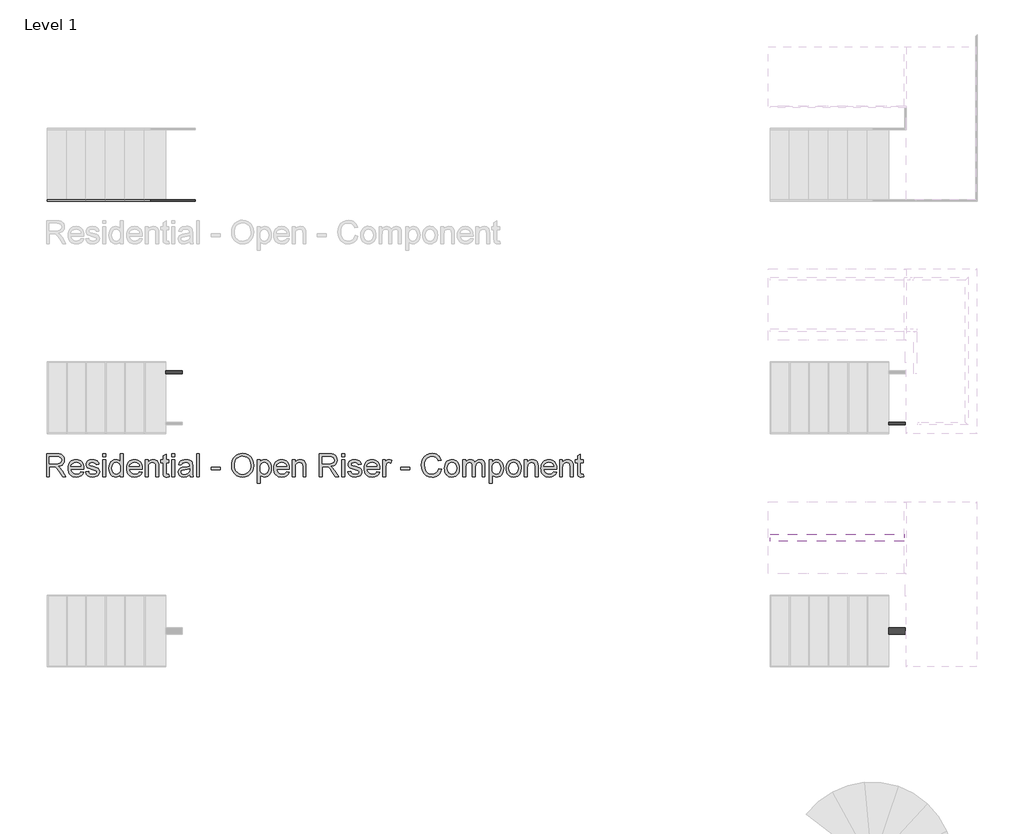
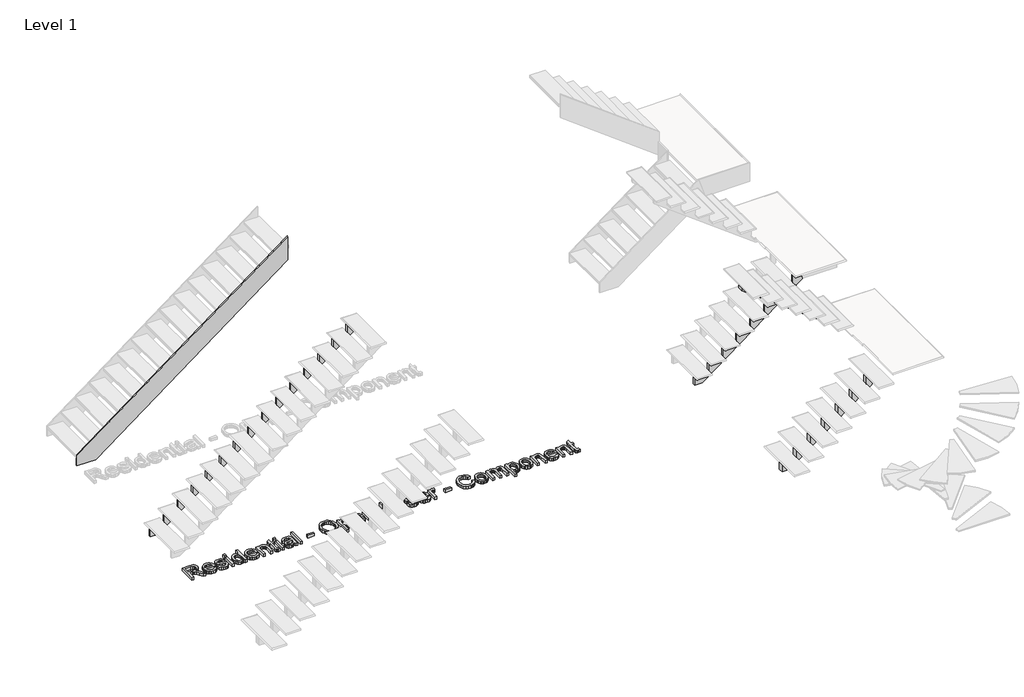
# One storey, part 5 of 15: 5 members, 1 proxy.
"""IFC4 building model written with IfcOpenShell, lengths in millimetres."""

from ifc_helpers import new_model, si_unit, frame, origin, origin_with_axes, place, context, project, spatial, polyline, outline, extrude, element, save

model = new_model("IFC4")

# Units and contexts
model_context = context("Model", 3, world=origin())
ifc_project = project(units=[si_unit("LENGTHUNIT", "METRE", prefix="MILLI")], contexts=[model_context])

# Site, building, storey
site = spatial("IfcSite", under=ifc_project)
building = spatial("IfcBuilding", under=site)
storey = spatial("IfcBuildingStorey", under=building, Name="Level 1", Elevation=0.0)

# Proxy
placement = place(None, origin())
element("IfcBuildingElementProxy", 1, Name="12\" Arial", ObjectType="12\" Arial", at=placement, inside=storey, context=model_context, shape_type="SweptSolid", body=[
    extrude(outline(polyline([(-27238.310174, -8811.1232123), (-27238.310174, -8511.012443), (-27108.9899817, -8511.012443), (-27074.2328904, -8513.0365055), (-27048.9458471, -8519.108693), (-27030.4636837, -8530.3188854), (-27016.1212317, -8547.7569623), (-27006.9167846, -8569.380544), (-27003.8486356, -8593.1472507), (-27008.9316885, -8622.7113854), (-27024.1808471, -8647.219943), (-27035.7321993, -8657.2074551), (-27050.0540442, -8665.1892219), (-27087.0092125, -8675.13552), (-27065.6878664, -8691.1814815), (-27035.2811356, -8729.7943661), (-26985.238251, -8811.1232123), (-27028.8334433, -8811.1232123), (-27067.8859433, -8748.9176354), (-27096.0945971, -8707.7403277), (-27115.913924, -8688.2873469), (-27133.7549817, -8681.1435969), (-27155.5159433, -8679.8247507), (-27200.7963279, -8679.8247507), (-27200.7963279, -8811.1232123), (-27238.310174, -8811.1232123)]), holes=[polyline([(-27200.7963279, -8642.3109046), (-27116.8297894, -8642.3109046), (-27092.7150539, -8640.9828998), (-27074.003924, -8636.9988854), (-27059.9179144, -8630.0932604), (-27049.6785394, -8620.0004238), (-27043.4414962, -8607.7919382), (-27041.3624817, -8594.5393661), (-27045.3281789, -8576.2403757), (-27057.2252702, -8561.494943), (-27077.6948615, -8551.7684527), (-27107.3780587, -8548.5262892), (-27200.7963279, -8548.5262892), (-27200.7963279, -8642.3109046)])]), origin_with_axes(), (0.0, 0.0, 1.0), 50.8),
    extrude(outline(polyline([(-26788.5836356, -8745.4739815), (-26751.8024817, -8750.1632123), (-26765.0550539, -8777.8772988), (-26786.2023856, -8798.5941738), (-26814.7682269, -8811.5078757), (-26850.2763279, -8815.812443), (-26873.5530466, -8813.955526), (-26894.2928183, -8808.3847748), (-26912.4956428, -8799.1001894), (-26928.1615202, -8786.10177), (-26940.7592486, -8769.7512832), (-26949.757626, -8750.4104959), (-26955.1566524, -8728.0794082), (-26956.9563279, -8702.75802), (-26955.1383351, -8676.5780079), (-26949.6843567, -8653.5027796), (-26940.5943928, -8633.5323349), (-26927.8684433, -8616.6666738), (-26912.2437798, -8603.2675632), (-26894.457674, -8593.69677), (-26874.510126, -8587.954294), (-26852.4011356, -8586.0401354), (-26831.0042305, -8587.9497147), (-26811.6542846, -8593.6784527), (-26794.3512978, -8603.2263493), (-26779.0952702, -8616.5934046), (-26766.6417906, -8633.422431), (-26757.7464481, -8653.3562411), (-26752.4092426, -8676.3948349), (-26750.630174, -8702.5382123), (-26750.8499817, -8712.6493661), (-26919.4424817, -8712.6493661), (-26912.9489962, -8740.7297988), (-26897.8646933, -8761.3734046), (-26876.0945731, -8774.0672988), (-26849.5436356, -8778.2985969), (-26829.5777702, -8776.338645), (-26812.7624817, -8770.4587892), (-26799.0977702, -8760.2926834), (-26788.5836356, -8745.4739815)]), holes=[polyline([(-26919.4424817, -8675.13552), (-26788.1440202, -8675.13552), (-26793.2179144, -8655.316193), (-26803.1642125, -8641.1385969), (-26825.0350779, -8627.9501354), (-26852.547674, -8623.5539815), (-26877.8347173, -8627.0617459), (-26898.743924, -8637.5850392), (-26913.2787077, -8653.9881882), (-26919.4424817, -8675.13552)])]), origin_with_axes(), (0.0, 0.0, 1.0), 50.8),
    extrude(outline(polyline([(-26727.1840202, -8745.4739815), (-26689.670174, -8740.7847507), (-26683.7536837, -8756.8307123), (-26672.3053664, -8768.6270584), (-26655.2519529, -8775.8807123), (-26632.520174, -8778.2985969), (-26610.0631548, -8776.0822027), (-26594.2736356, -8769.43302), (-26584.9318087, -8759.7981161), (-26581.8178664, -8748.6245584), (-26584.950126, -8739.0629238), (-26594.3469048, -8731.7726354), (-26632.9597894, -8721.0753277), (-26689.4503664, -8702.7213854), (-26703.747025, -8693.4986209), (-26714.1054625, -8681.2901354), (-26720.3974577, -8666.8744142), (-26722.4947894, -8651.029943), (-26720.8095971, -8636.4951594), (-26715.7540202, -8623.0777315), (-26707.7859914, -8611.3088613), (-26697.3634433, -8601.7197507), (-26673.5143087, -8590.6194623), (-26641.2392125, -8586.0401354), (-26616.8222414, -8587.8810248), (-26595.5924817, -8593.403693), (-26578.520751, -8602.0677796), (-26566.5778664, -8613.3329238), (-26558.6647894, -8628.0325632), (-26553.6824817, -8647.0001354), (-26591.1963279, -8651.6893661), (-26595.9313519, -8639.8838613), (-26605.3006548, -8630.9908084), (-26619.3958231, -8625.4131882), (-26638.3084433, -8623.5539815), (-26659.8495971, -8625.3307604), (-26674.2103664, -8630.6610969), (-26682.288299, -8638.3543661), (-26684.9809433, -8647.219943), (-26680.5115202, -8658.1370584), (-26666.5170971, -8666.4164815), (-26634.2053664, -8674.4028277), (-26579.1435394, -8692.0607123), (-26564.5995971, -8700.5049911), (-26553.5725779, -8712.0632123), (-26546.6211596, -8726.7720104), (-26544.3040202, -8744.66802), (-26547.0241404, -8763.1685007), (-26555.184501, -8780.569943), (-26568.4737077, -8795.5077075), (-26586.5803664, -8806.6171546), (-26608.4512317, -8813.5136209), (-26633.0330587, -8815.812443), (-26670.858299, -8811.3796546), (-26698.4624817, -8798.0812892), (-26716.8896933, -8776.0638854), (-26727.1840202, -8745.4739815)])), origin_with_axes(), (0.0, 0.0, 1.0), 50.8),
    extrude(outline(polyline([(-26502.1009433, -8811.1232123), (-26502.1009433, -8590.7293661), (-26464.5870971, -8590.7293661), (-26464.5870971, -8811.1232123), (-26502.1009433, -8811.1232123)])), origin_with_axes(), (0.0, 0.0, 1.0), 50.8),
    extrude(outline(polyline([(-26502.1009433, -8548.5262892), (-26502.1009433, -8511.012443), (-26464.5870971, -8511.012443), (-26464.5870971, -8548.5262892), (-26502.1009433, -8548.5262892)])), origin_with_axes(), (0.0, 0.0, 1.0), 50.8),
    extrude(outline(polyline([(-26272.3286356, -8811.1232123), (-26272.3286356, -8775.7341738), (-26283.5525659, -8793.2684166), (-26297.1485875, -8805.7928757), (-26313.1167005, -8813.3075512), (-26331.4569048, -8815.812443), (-26355.7090202, -8812.1856161), (-26377.9095971, -8801.3051354), (-26396.7031548, -8783.931169), (-26410.7342125, -8760.8238854), (-26419.4715683, -8732.9174671), (-26422.3840202, -8701.1460969), (-26419.7005346, -8669.7685488), (-26411.6500779, -8641.4316738), (-26398.2418087, -8617.747395), (-26379.4848856, -8600.3276354), (-26356.7989, -8589.6120104), (-26331.6034433, -8586.0401354), (-26313.249501, -8588.5953998), (-26297.0203664, -8596.261193), (-26283.2640683, -8608.0117459), (-26272.3286356, -8622.8212892), (-26272.3286356, -8511.012443), (-26234.8147894, -8511.012443), (-26234.8147894, -8811.1232123), (-26272.3286356, -8811.1232123)]), holes=[polyline([(-26384.870174, -8700.9995584), (-26380.638876, -8734.9323709), (-26367.9449817, -8759.0654238), (-26349.4994529, -8773.4903036), (-26328.013251, -8778.2985969), (-26306.5362077, -8773.7101113), (-26288.5577702, -8759.9446546), (-26276.3859192, -8736.7457844), (-26272.3286356, -8703.8570584), (-26276.4591885, -8667.9001834), (-26288.8508471, -8642.9703277), (-26307.2872173, -8628.408068), (-26329.5519048, -8623.5539815), (-26351.2579144, -8628.2157363), (-26369.0440202, -8642.2010007), (-26380.9136356, -8666.2241498), (-26384.870174, -8700.9995584)])]), origin_with_axes(), (0.0, 0.0, 1.0), 50.8),
    extrude(outline(polyline([(-26024.2390202, -8745.4739815), (-25987.4578664, -8750.1632123), (-26000.7104385, -8777.8772988), (-26021.8577702, -8798.5941738), (-26050.4236115, -8811.5078757), (-26085.9317125, -8815.812443), (-26109.2084313, -8813.955526), (-26129.9482029, -8808.3847748), (-26148.1510274, -8799.1001894), (-26163.8169048, -8786.10177), (-26176.4146332, -8769.7512832), (-26185.4130106, -8750.4104959), (-26190.812037, -8728.0794082), (-26192.6117125, -8702.75802), (-26190.7937197, -8676.5780079), (-26185.3397414, -8653.5027796), (-26176.2497774, -8633.5323349), (-26163.5238279, -8616.6666738), (-26147.8991644, -8603.2675632), (-26130.1130587, -8593.69677), (-26110.1655106, -8587.954294), (-26088.0565202, -8586.0401354), (-26066.6596152, -8587.9497147), (-26047.3096692, -8593.6784527), (-26030.0066825, -8603.2263493), (-26014.7506548, -8616.5934046), (-26002.2971753, -8633.422431), (-25993.4018327, -8653.3562411), (-25988.0646272, -8676.3948349), (-25986.2855587, -8702.5382123), (-25986.5053664, -8712.6493661), (-26155.0978664, -8712.6493661), (-26148.6043808, -8740.7297988), (-26133.5200779, -8761.3734046), (-26111.7499577, -8774.0672988), (-26085.1990202, -8778.2985969), (-26065.2331548, -8776.338645), (-26048.4178664, -8770.4587892), (-26034.7531548, -8760.2926834), (-26024.2390202, -8745.4739815)]), holes=[polyline([(-26155.0978664, -8675.13552), (-26023.7994048, -8675.13552), (-26028.873299, -8655.316193), (-26038.8195971, -8641.1385969), (-26060.6904625, -8627.9501354), (-26088.2030587, -8623.5539815), (-26113.4901019, -8627.0617459), (-26134.3993087, -8637.5850392), (-26148.9340923, -8653.9881882), (-26155.0978664, -8675.13552)])]), origin_with_axes(), (0.0, 0.0, 1.0), 50.8),
    extrude(outline(polyline([(-25948.7717125, -8811.1232123), (-25948.7717125, -8590.7293661), (-25911.2578664, -8590.7293661), (-25911.2578664, -8621.502443), (-25898.2251019, -8605.9876834), (-25882.5729625, -8594.9057123), (-25864.3014481, -8588.2565296), (-25843.4105587, -8586.0401354), (-25824.9192365, -8587.8260729), (-25807.9848856, -8593.1838854), (-25793.8622414, -8601.4449911), (-25783.8060394, -8611.9408084), (-25772.5592125, -8639.5266738), (-25770.5809433, -8675.794943), (-25770.5809433, -8811.1232123), (-25808.0947894, -8811.1232123), (-25808.0947894, -8680.85052), (-25812.417674, -8647.6595584), (-25818.398275, -8637.7773709), (-25827.6943087, -8630.1115777), (-25839.6097173, -8625.1933805), (-25853.4484433, -8623.5539815), (-25875.4200539, -8627.2357604), (-25894.149501, -8638.2810969), (-25901.6344108, -8647.2977916), (-25906.980775, -8659.6207604), (-25911.2578664, -8694.18552), (-25911.2578664, -8811.1232123), (-25948.7717125, -8811.1232123)])), origin_with_axes(), (0.0, 0.0, 1.0), 50.8),
    extrude(outline(polyline([(-25639.2824817, -8779.8372507), (-25634.593251, -8812.2222507), (-25662.6553664, -8815.812443), (-25680.6612798, -8814.2554719), (-25694.0878664, -8809.5845584), (-25703.5762317, -8802.3858565), (-25709.7674817, -8793.24552), (-25713.174501, -8777.5475873), (-25714.310174, -8750.6760969), (-25714.310174, -8628.2432123), (-25742.4455587, -8628.2432123), (-25742.4455587, -8590.7293661), (-25714.310174, -8590.7293661), (-25714.310174, -8537.1695584), (-25676.7963279, -8515.11552), (-25676.7963279, -8590.7293661), (-25639.2824817, -8590.7293661), (-25639.2824817, -8628.2432123), (-25676.7963279, -8628.2432123), (-25676.7963279, -8749.5770584), (-25674.8180587, -8768.9201354), (-25668.407001, -8775.7708084), (-25655.6215202, -8778.2985969), (-25639.2824817, -8779.8372507)])), origin_with_axes(), (0.0, 0.0, 1.0), 50.8),
    extrude(outline(polyline([(-25601.7686356, -8811.1232123), (-25601.7686356, -8590.7293661), (-25564.2547894, -8590.7293661), (-25564.2547894, -8811.1232123), (-25601.7686356, -8811.1232123)])), origin_with_axes(), (0.0, 0.0, 1.0), 50.8),
    extrude(outline(polyline([(-25601.7686356, -8548.5262892), (-25601.7686356, -8511.012443), (-25564.2547894, -8511.012443), (-25564.2547894, -8548.5262892), (-25601.7686356, -8548.5262892)])), origin_with_axes(), (0.0, 0.0, 1.0), 50.8),
    extrude(outline(polyline([(-25367.3070971, -8782.9878277), (-25385.2305827, -8798.3560488), (-25403.6852702, -8808.4122507), (-25423.0924577, -8813.962395), (-25443.8734433, -8815.812443), (-25475.2235154, -8811.3613373), (-25498.3491164, -8798.00802), (-25512.6091404, -8777.7307604), (-25517.3624817, -8752.5078277), (-25515.5673856, -8736.9564334), (-25510.1820971, -8722.8337892), (-25501.8751981, -8710.7443661), (-25491.3152702, -8701.2926354), (-25465.048251, -8688.9834046), (-25432.5899817, -8683.3416738), (-25394.2335394, -8677.4068661), (-25367.5269048, -8670.4462892), (-25367.3070971, -8662.0935969), (-25369.8898375, -8645.3515777), (-25377.6380587, -8634.3978277), (-25394.9662317, -8626.264943), (-25419.1084433, -8623.5539815), (-25441.4555587, -8625.3582363), (-25457.0619048, -8630.7710007), (-25467.7042606, -8640.7814094), (-25475.1594048, -8656.3785969), (-25512.673251, -8651.6893661), (-25506.1614481, -8631.1739815), (-25496.4441164, -8615.0547507), (-25482.614549, -8602.7272027), (-25463.7660394, -8593.5868661), (-25440.7137077, -8587.926818), (-25414.272674, -8586.0401354), (-25388.9123615, -8587.7070104), (-25368.8091164, -8592.7076354), (-25353.6515442, -8600.2268902), (-25343.128251, -8609.4496546), (-25336.1493567, -8620.8521786), (-25331.6249817, -8634.9107123), (-25329.793251, -8667.7353277), (-25329.793251, -8714.4078277), (-25327.888251, -8779.5808084), (-25320.4147894, -8811.1232123), (-25357.9286356, -8811.1232123), (-25367.3070971, -8782.9878277)]), holes=[polyline([(-25367.3070971, -8707.9601354), (-25427.8274817, -8719.4634046), (-25460.1025779, -8725.5447507), (-25474.7197894, -8735.4360969), (-25479.8486356, -8749.8701354), (-25477.0552462, -8761.0253757), (-25468.6750779, -8770.1657123), (-25454.8913039, -8776.2653757), (-25435.8870971, -8778.2985969), (-25415.7380587, -8776.0547267), (-25397.9336356, -8769.3231161), (-25383.4995971, -8759.404294), (-25373.4617125, -8747.5987892), (-25369.0106067, -8735.4360969), (-25367.5269048, -8718.5841738), (-25367.3070971, -8707.9601354)])]), origin_with_axes(), (0.0, 0.0, 1.0), 50.8),
    extrude(outline(polyline([(-25278.2117125, -8811.1232123), (-25278.2117125, -8511.012443), (-25240.6978664, -8511.012443), (-25240.6978664, -8811.1232123), (-25278.2117125, -8811.1232123)])), origin_with_axes(), (0.0, 0.0, 1.0), 50.8),
    extrude(outline(polyline([(-25085.953251, -8722.0278277), (-25085.953251, -8684.5139815), (-24968.7224817, -8684.5139815), (-24968.7224817, -8722.0278277), (-25085.953251, -8722.0278277)])), origin_with_axes(), (0.0, 0.0, 1.0), 50.8),
    extrude(outline(polyline([(-24818.6670971, -8665.0243661), (-24816.1667846, -8629.8230801), (-24808.6658471, -8598.6607604), (-24796.1642846, -8571.537407), (-24778.6620971, -8548.45302), (-24757.2079505, -8530.0212291), (-24732.8505106, -8516.8556642), (-24705.5897774, -8508.9563253), (-24675.425751, -8506.3232123), (-24636.0618567, -8511.2688854), (-24600.7644048, -8526.1059046), (-24571.4567125, -8549.7901834), (-24550.0620971, -8581.2776354), (-24536.9835394, -8619.0479238), (-24532.6240202, -8661.5807123), (-24537.2125058, -8704.6813373), (-24550.9779625, -8742.9828277), (-24573.1602221, -8774.5252315), (-24602.9991164, -8797.3485969), (-24637.9943327, -8811.1964815), (-24675.6455587, -8815.812443), (-24715.613924, -8810.7110729), (-24751.1128664, -8795.4069623), (-24780.3472894, -8771.283068), (-24801.5220971, -8739.7223469), (-24814.3808471, -8703.4082844), (-24818.6670971, -8665.0243661)]), holes=[polyline([(-24781.153251, -8665.3907123), (-24779.2780166, -8690.2610368), (-24773.6523135, -8712.3379719), (-24764.2761416, -8731.6215176), (-24751.149501, -8748.1116738), (-24735.1928363, -8761.3184527), (-24717.3265923, -8770.7518661), (-24697.550769, -8776.4119142), (-24675.8653664, -8778.2985969), (-24653.8090382, -8776.3935969), (-24633.7996692, -8770.6785969), (-24615.8372594, -8761.1535969), (-24599.9218087, -8747.8185969), (-24586.8913339, -8730.9804118), (-24577.5838519, -8710.9458565), (-24571.9993628, -8687.714931), (-24570.1378664, -8661.2876354), (-24573.3250779, -8628.0783565), (-24582.8867125, -8599.3751354), (-24598.5754865, -8575.9015055), (-24620.1441164, -8558.3810007), (-24646.1638519, -8547.473044), (-24675.2059433, -8543.8370584), (-24696.1380466, -8545.588651), (-24715.5589721, -8550.8434286), (-24733.4687197, -8559.6013914), (-24749.8672894, -8571.8625392), (-24763.5548976, -8588.2176053), (-24773.3317606, -8609.2573229), (-24779.1978784, -8634.9816918), (-24781.153251, -8665.3907123)])]), origin_with_axes(), (0.0, 0.0, 1.0), 50.8),
    extrude(outline(polyline([(-24485.7317125, -8895.5293661), (-24485.7317125, -8590.7293661), (-24448.2178664, -8590.7293661), (-24448.2178664, -8627.51052), (-24435.9819048, -8609.3672267), (-24422.2805587, -8596.4077315), (-24406.3078664, -8588.6320344), (-24387.2578664, -8586.0401354), (-24361.8883952, -8589.6669623), (-24339.7061356, -8600.547443), (-24321.6452702, -8618.0221546), (-24308.6399817, -8641.4316738), (-24300.7818567, -8669.0724911), (-24298.1624817, -8699.2410969), (-24301.1207269, -8731.3238613), (-24309.9954625, -8760.0179238), (-24324.5027702, -8783.8670584), (-24344.3587317, -8801.4150392), (-24367.4843327, -8812.2130921), (-24391.8005587, -8815.812443), (-24409.0463039, -8813.4037171), (-24424.442001, -8806.1775392), (-24437.6213039, -8795.2695825), (-24448.2178664, -8781.81552), (-24448.2178664, -8895.5293661), (-24485.7317125, -8895.5293661)]), holes=[polyline([(-24448.2178664, -8702.6847507), (-24444.1605827, -8736.3153277), (-24431.9887317, -8759.8347507), (-24414.0286115, -8773.6826354), (-24392.6065202, -8778.2985969), (-24370.8364, -8773.5177796), (-24352.4183471, -8759.1753277), (-24339.8618327, -8734.7949911), (-24335.6763279, -8699.90052), (-24339.7610875, -8666.4531161), (-24352.0153664, -8642.6039815), (-24369.9480106, -8628.3164815), (-24391.0678664, -8623.5539815), (-24412.27015, -8628.6187171), (-24430.8896933, -8643.8129238), (-24443.8858231, -8668.6603517), (-24448.2178664, -8702.6847507)])]), origin_with_axes(), (0.0, 0.0, 1.0), 50.8),
    extrude(outline(polyline([(-24101.6544048, -8745.4739815), (-24064.873251, -8750.1632123), (-24078.1258231, -8777.8772988), (-24099.2731548, -8798.5941738), (-24127.8389962, -8811.5078757), (-24163.3470971, -8815.812443), (-24186.6238159, -8813.955526), (-24207.3635875, -8808.3847748), (-24225.566412, -8799.1001894), (-24241.2322894, -8786.10177), (-24253.8300178, -8769.7512832), (-24262.8283952, -8750.4104959), (-24268.2274216, -8728.0794082), (-24270.0270971, -8702.75802), (-24268.2091043, -8676.5780079), (-24262.755126, -8653.5027796), (-24253.665162, -8633.5323349), (-24240.9392125, -8616.6666738), (-24225.314549, -8603.2675632), (-24207.5284433, -8593.69677), (-24187.5808952, -8587.954294), (-24165.4719048, -8586.0401354), (-24144.0749998, -8587.9497147), (-24124.7250539, -8593.6784527), (-24107.4220671, -8603.2263493), (-24092.1660394, -8616.5934046), (-24079.7125599, -8633.422431), (-24070.8172173, -8653.3562411), (-24065.4800118, -8676.3948349), (-24063.7009433, -8702.5382123), (-24063.920751, -8712.6493661), (-24232.513251, -8712.6493661), (-24226.0197654, -8740.7297988), (-24210.9354625, -8761.3734046), (-24189.1653423, -8774.0672988), (-24162.6144048, -8778.2985969), (-24142.6485394, -8776.338645), (-24125.833251, -8770.4587892), (-24112.1685394, -8760.2926834), (-24101.6544048, -8745.4739815)]), holes=[polyline([(-24232.513251, -8675.13552), (-24101.2147894, -8675.13552), (-24106.2886837, -8655.316193), (-24116.2349817, -8641.1385969), (-24138.1058471, -8627.9501354), (-24165.6184433, -8623.5539815), (-24190.9054865, -8627.0617459), (-24211.8146933, -8637.5850392), (-24226.3494769, -8653.9881882), (-24232.513251, -8675.13552)])]), origin_with_axes(), (0.0, 0.0, 1.0), 50.8),
    extrude(outline(polyline([(-24026.1870971, -8811.1232123), (-24026.1870971, -8590.7293661), (-23988.673251, -8590.7293661), (-23988.673251, -8621.502443), (-23975.6404865, -8605.9876834), (-23959.9883471, -8594.9057123), (-23941.7168327, -8588.2565296), (-23920.8259433, -8586.0401354), (-23902.3346212, -8587.8260729), (-23885.4002702, -8593.1838854), (-23871.277626, -8601.4449911), (-23861.221424, -8611.9408084), (-23849.9745971, -8639.5266738), (-23847.9963279, -8675.794943), (-23847.9963279, -8811.1232123), (-23885.510174, -8811.1232123), (-23885.510174, -8680.85052), (-23889.8330587, -8647.6595584), (-23895.8136596, -8637.7773709), (-23905.1096933, -8630.1115777), (-23917.0251019, -8625.1933805), (-23930.8638279, -8623.5539815), (-23952.8354385, -8627.2357604), (-23971.5648856, -8638.2810969), (-23979.0497954, -8647.2977916), (-23984.3961596, -8659.6207604), (-23988.673251, -8694.18552), (-23988.673251, -8811.1232123), (-24026.1870971, -8811.1232123)])), origin_with_axes(), (0.0, 0.0, 1.0), 50.8),
    extrude(outline(polyline([(-23674.4947894, -8811.1232123), (-23674.4947894, -8511.012443), (-23545.1745971, -8511.012443), (-23510.4175058, -8513.0365055), (-23485.1304625, -8519.108693), (-23466.648299, -8530.3188854), (-23452.3058471, -8547.7569623), (-23443.1014, -8569.380544), (-23440.033251, -8593.1472507), (-23445.1163039, -8622.7113854), (-23460.3654625, -8647.219943), (-23471.9168147, -8657.2074551), (-23486.2386596, -8665.1892219), (-23523.1938279, -8675.13552), (-23501.8724817, -8691.1814815), (-23471.465751, -8729.7943661), (-23421.4228664, -8811.1232123), (-23465.0180587, -8811.1232123), (-23504.0705587, -8748.9176354), (-23532.2792125, -8707.7403277), (-23552.0985394, -8688.2873469), (-23569.9395971, -8681.1435969), (-23591.7005587, -8679.8247507), (-23636.9809433, -8679.8247507), (-23636.9809433, -8811.1232123), (-23674.4947894, -8811.1232123)]), holes=[polyline([(-23636.9809433, -8642.3109046), (-23553.0144048, -8642.3109046), (-23528.8996692, -8640.9828998), (-23510.1885394, -8636.9988854), (-23496.1025298, -8630.0932604), (-23485.8631548, -8620.0004238), (-23479.6261115, -8607.7919382), (-23477.5470971, -8594.5393661), (-23481.5127942, -8576.2403757), (-23493.4098856, -8561.494943), (-23513.8794769, -8551.7684527), (-23543.562674, -8548.5262892), (-23636.9809433, -8548.5262892), (-23636.9809433, -8642.3109046)])]), origin_with_axes(), (0.0, 0.0, 1.0), 50.8),
    extrude(outline(polyline([(-23379.073251, -8811.1232123), (-23379.073251, -8590.7293661), (-23341.5594048, -8590.7293661), (-23341.5594048, -8811.1232123), (-23379.073251, -8811.1232123)])), origin_with_axes(), (0.0, 0.0, 1.0), 50.8),
    extrude(outline(polyline([(-23379.073251, -8548.5262892), (-23379.073251, -8511.012443), (-23341.5594048, -8511.012443), (-23341.5594048, -8548.5262892), (-23379.073251, -8548.5262892)])), origin_with_axes(), (0.0, 0.0, 1.0), 50.8),
    extrude(outline(polyline([(-23299.3563279, -8745.4739815), (-23261.8424817, -8740.7847507), (-23255.9259914, -8756.8307123), (-23244.477674, -8768.6270584), (-23227.4242606, -8775.8807123), (-23204.6924817, -8778.2985969), (-23182.2354625, -8776.0822027), (-23166.4459433, -8769.43302), (-23157.1041164, -8759.7981161), (-23153.990174, -8748.6245584), (-23157.1224337, -8739.0629238), (-23166.5192125, -8731.7726354), (-23205.1320971, -8721.0753277), (-23261.622674, -8702.7213854), (-23275.9193327, -8693.4986209), (-23286.2777702, -8681.2901354), (-23292.5697654, -8666.8744142), (-23294.6670971, -8651.029943), (-23292.9819048, -8636.4951594), (-23287.9263279, -8623.0777315), (-23279.958299, -8611.3088613), (-23269.535751, -8601.7197507), (-23245.6866164, -8590.6194623), (-23213.4115202, -8586.0401354), (-23188.994549, -8587.8810248), (-23167.7647894, -8593.403693), (-23150.6930587, -8602.0677796), (-23138.750174, -8613.3329238), (-23130.8370971, -8628.0325632), (-23125.8547894, -8647.0001354), (-23163.3686356, -8651.6893661), (-23168.1036596, -8639.8838613), (-23177.4729625, -8630.9908084), (-23191.5681308, -8625.4131882), (-23210.480751, -8623.5539815), (-23232.0219048, -8625.3307604), (-23246.382674, -8630.6610969), (-23254.4606067, -8638.3543661), (-23257.153251, -8647.219943), (-23252.6838279, -8658.1370584), (-23238.6894048, -8666.4164815), (-23206.377674, -8674.4028277), (-23151.3158471, -8692.0607123), (-23136.7719048, -8700.5049911), (-23125.7448856, -8712.0632123), (-23118.7934673, -8726.7720104), (-23116.4763279, -8744.66802), (-23119.1964481, -8763.1685007), (-23127.3568087, -8780.569943), (-23140.6460154, -8795.5077075), (-23158.752674, -8806.6171546), (-23180.6235394, -8813.5136209), (-23205.2053664, -8815.812443), (-23243.0306067, -8811.3796546), (-23270.6347894, -8798.0812892), (-23289.062001, -8776.0638854), (-23299.3563279, -8745.4739815)])), origin_with_axes(), (0.0, 0.0, 1.0), 50.8),
    extrude(outline(polyline([(-22919.968251, -8745.4739815), (-22883.1870971, -8750.1632123), (-22896.4396692, -8777.8772988), (-22917.587001, -8798.5941738), (-22946.1528423, -8811.5078757), (-22981.6609433, -8815.812443), (-23004.937662, -8813.955526), (-23025.6774337, -8808.3847748), (-23043.8802582, -8799.1001894), (-23059.5461356, -8786.10177), (-23072.143864, -8769.7512832), (-23081.1422414, -8750.4104959), (-23086.5412678, -8728.0794082), (-23088.3409433, -8702.75802), (-23086.5229505, -8676.5780079), (-23081.0689721, -8653.5027796), (-23071.9790082, -8633.5323349), (-23059.2530587, -8616.6666738), (-23043.6283952, -8603.2675632), (-23025.8422894, -8593.69677), (-23005.8947414, -8587.954294), (-22983.785751, -8586.0401354), (-22962.3888459, -8587.9497147), (-22943.0389, -8593.6784527), (-22925.7359132, -8603.2263493), (-22910.4798856, -8616.5934046), (-22898.026406, -8633.422431), (-22889.1310635, -8653.3562411), (-22883.7938579, -8676.3948349), (-22882.0147894, -8702.5382123), (-22882.2345971, -8712.6493661), (-23050.8270971, -8712.6493661), (-23044.3336115, -8740.7297988), (-23029.2493087, -8761.3734046), (-23007.4791885, -8774.0672988), (-22980.928251, -8778.2985969), (-22960.9623856, -8776.338645), (-22944.1470971, -8770.4587892), (-22930.4823856, -8760.2926834), (-22919.968251, -8745.4739815)]), holes=[polyline([(-23050.8270971, -8675.13552), (-22919.5286356, -8675.13552), (-22924.6025298, -8655.316193), (-22934.5488279, -8641.1385969), (-22956.4196933, -8627.9501354), (-22983.9322894, -8623.5539815), (-23009.2193327, -8627.0617459), (-23030.1285394, -8637.5850392), (-23044.6633231, -8653.9881882), (-23050.8270971, -8675.13552)])]), origin_with_axes(), (0.0, 0.0, 1.0), 50.8),
    extrude(outline(polyline([(-22844.5009433, -8811.1232123), (-22844.5009433, -8590.7293661), (-22811.6763279, -8590.7293661), (-22811.6763279, -8623.3341738), (-22799.5502702, -8604.4307123), (-22788.3767125, -8593.2937892), (-22777.1665202, -8587.8535488), (-22764.9305587, -8586.0401354), (-22746.2469048, -8588.93427), (-22727.270174, -8597.6166738), (-22739.7992125, -8631.2472507), (-22752.987674, -8625.4772988), (-22766.1761356, -8623.5539815), (-22777.3771692, -8625.4040296), (-22787.3875779, -8630.9541738), (-22795.4746692, -8639.7831161), (-22800.905751, -8651.4695584), (-22805.4667606, -8672.4245584), (-22806.9870971, -8695.2845584), (-22806.9870971, -8811.1232123), (-22844.5009433, -8811.1232123)])), origin_with_axes(), (0.0, 0.0, 1.0), 50.8),
    extrude(outline(polyline([(-22605.350174, -8722.0278277), (-22605.350174, -8684.5139815), (-22488.1194048, -8684.5139815), (-22488.1194048, -8722.0278277), (-22605.350174, -8722.0278277)])), origin_with_axes(), (0.0, 0.0, 1.0), 50.8),
    extrude(outline(polyline([(-22112.9809433, -8704.4432123), (-22075.4670971, -8714.1147507), (-22082.8901861, -8737.4441317), (-22092.7769529, -8757.8290055), (-22105.1273976, -8775.2693721), (-22119.9415202, -8789.7652315), (-22136.8850298, -8801.1608866), (-22155.6236356, -8809.3006402), (-22176.1573375, -8814.1844923), (-22198.4861356, -8815.812443), (-22241.9989, -8810.8850873), (-22276.554501, -8796.10302), (-22303.0413279, -8771.9791257), (-22322.3477702, -8739.0262892), (-22334.1349577, -8700.2851834), (-22338.0640202, -8658.7964815), (-22333.6220731, -8615.0364334), (-22320.2962317, -8577.2478277), (-22298.7825539, -8546.6304479), (-22269.7770971, -8524.3840777), (-22235.3771933, -8510.8384286), (-22197.680174, -8506.3232123), (-22156.5486596, -8512.1664334), (-22138.6549397, -8519.4704599), (-22122.5425779, -8529.6960969), (-22108.4771753, -8542.5731642), (-22096.7243327, -8557.8314815), (-22080.1563279, -8595.4918661), (-22117.670174, -8604.4307123), (-22130.6754625, -8577.0738132), (-22148.443251, -8558.3077315), (-22171.1933471, -8547.4547267), (-22199.1455587, -8543.8370584), (-22231.3657029, -8547.8485488), (-22257.8342125, -8559.88302), (-22277.9191404, -8578.6765777), (-22290.9885394, -8602.9653277), (-22298.1597654, -8630.4229719), (-22300.550174, -8658.7232123), (-22297.72015, -8693.3795584), (-22289.2300779, -8723.3466738), (-22274.7594048, -8747.4797267), (-22253.9875779, -8764.6338854), (-22229.0851981, -8774.882419), (-22202.2228664, -8778.2985969), (-22170.9094289, -8773.6460007), (-22144.816424, -8759.6882123), (-22125.1161596, -8736.57177), (-22112.9809433, -8704.4432123)])), origin_with_axes(), (0.0, 0.0, 1.0), 50.8),
    extrude(outline(polyline([(-22037.953251, -8700.9262892), (-22035.9246091, -8672.3833445), (-22029.8386837, -8647.7877796), (-22019.6954745, -8627.1395945), (-22005.4949817, -8610.4387892), (-21991.1983231, -8599.7643781), (-21975.4179625, -8592.1397988), (-21958.1539, -8587.5650512), (-21939.4061356, -8586.0401354), (-21918.7098676, -8587.8970524), (-21899.9964481, -8593.4678036), (-21883.2658772, -8602.752389), (-21868.5181548, -8615.7508084), (-21856.481394, -8632.0234466), (-21847.8837077, -8651.1306882), (-21842.7250959, -8673.0725332), (-21841.0055587, -8697.8489815), (-21844.0462317, -8735.7474911), (-21853.168251, -8764.5972507), (-21868.1060154, -8786.2025152), (-21888.593924, -8802.3675392), (-21912.9284673, -8812.4512171), (-21939.4061356, -8815.812443), (-21960.4046392, -8813.962395), (-21979.2920731, -8808.4122507), (-21996.0684373, -8799.1620104), (-22010.7337317, -8786.2116738), (-22022.6422714, -8769.7810488), (-22031.1483712, -8750.089943), (-22036.252031, -8727.1383565), (-22037.953251, -8700.9262892)]), holes=[polyline([(-22000.4394048, -8700.85302), (-21996.0982029, -8734.8041498), (-21983.0745971, -8758.9921546), (-21963.4750779, -8773.4719863), (-21939.4061356, -8778.2985969), (-21915.4470971, -8773.4445104), (-21895.8842125, -8758.8822507), (-21882.8606067, -8734.373693), (-21878.5194048, -8699.6807123), (-21882.8880827, -8666.7187171), (-21895.9941164, -8642.8604238), (-21915.5844769, -8628.3805921), (-21939.4061356, -8623.5539815), (-21963.4750779, -8628.3622748), (-21983.0745971, -8642.7871546), (-21996.0982029, -8666.9202075), (-22000.4394048, -8700.85302)])]), origin_with_axes(), (0.0, 0.0, 1.0), 50.8),
    extrude(outline(polyline([(-21798.8024817, -8811.1232123), (-21798.8024817, -8590.7293661), (-21761.2886356, -8590.7293661), (-21761.2886356, -8626.9976354), (-21750.005174, -8610.338044), (-21735.4978664, -8597.2869623), (-21718.2612798, -8588.8518421), (-21698.7899817, -8586.0401354), (-21677.9265683, -8588.906794), (-21661.2028664, -8597.50677), (-21648.7104625, -8611.2722267), (-21640.5409433, -8629.6353277), (-21626.8670731, -8610.562431), (-21611.2698856, -8596.9389334), (-21593.7493808, -8588.7648349), (-21574.3055587, -8586.0401354), (-21546.1060635, -8590.573669), (-21525.2518087, -8604.17427), (-21512.3655827, -8627.2082844), (-21508.070174, -8660.0420584), (-21508.070174, -8811.1232123), (-21545.5840202, -8811.1232123), (-21545.5840202, -8676.1612892), (-21549.0643087, -8644.838693), (-21553.9550298, -8636.2020825), (-21561.6666164, -8629.41552), (-21571.5854385, -8625.0193661), (-21583.0978664, -8623.5539815), (-21603.4209192, -8627.3090296), (-21619.988924, -8638.5741738), (-21631.0067846, -8658.1187411), (-21634.6794048, -8686.7120584), (-21634.6794048, -8811.1232123), (-21672.193251, -8811.1232123), (-21672.193251, -8671.984943), (-21674.3638519, -8650.7735007), (-21680.8756548, -8635.6434046), (-21692.3331308, -8626.5763373), (-21709.340751, -8623.5539815), (-21723.7931067, -8625.5688854), (-21737.1097894, -8631.6135969), (-21748.100174, -8641.5415777), (-21755.5736356, -8655.2062892), (-21759.8598856, -8674.1647027), (-21761.2886356, -8699.9737892), (-21761.2886356, -8811.1232123), (-21798.8024817, -8811.1232123)])), origin_with_axes(), (0.0, 0.0, 1.0), 50.8),
    extrude(outline(polyline([(-21451.7994048, -8895.5293661), (-21451.7994048, -8590.7293661), (-21414.2855587, -8590.7293661), (-21414.2855587, -8627.51052), (-21402.0495971, -8609.3672267), (-21388.348251, -8596.4077315), (-21372.3755587, -8588.6320344), (-21353.3255587, -8586.0401354), (-21327.9560875, -8589.6669623), (-21305.7738279, -8600.547443), (-21287.7129625, -8618.0221546), (-21274.707674, -8641.4316738), (-21266.849549, -8669.0724911), (-21264.230174, -8699.2410969), (-21267.1884192, -8731.3238613), (-21276.0631548, -8760.0179238), (-21290.5704625, -8783.8670584), (-21310.426424, -8801.4150392), (-21333.552025, -8812.2130921), (-21357.868251, -8815.812443), (-21375.1139962, -8813.4037171), (-21390.5096933, -8806.1775392), (-21403.6889962, -8795.2695825), (-21414.2855587, -8781.81552), (-21414.2855587, -8895.5293661), (-21451.7994048, -8895.5293661)]), holes=[polyline([(-21414.2855587, -8702.6847507), (-21410.228275, -8736.3153277), (-21398.056424, -8759.8347507), (-21380.0963039, -8773.6826354), (-21358.6742125, -8778.2985969), (-21336.9040923, -8773.5177796), (-21318.4860394, -8759.1753277), (-21305.929525, -8734.7949911), (-21301.7440202, -8699.90052), (-21305.8287798, -8666.4531161), (-21318.0830587, -8642.6039815), (-21336.0157029, -8628.3164815), (-21357.1355587, -8623.5539815), (-21378.3378423, -8628.6187171), (-21396.9573856, -8643.8129238), (-21409.9535154, -8668.6603517), (-21414.2855587, -8702.6847507)])]), origin_with_axes(), (0.0, 0.0, 1.0), 50.8),
    extrude(outline(polyline([(-21231.4055587, -8700.9262892), (-21229.3769168, -8672.3833445), (-21223.2909914, -8647.7877796), (-21213.1477822, -8627.1395945), (-21198.9472894, -8610.4387892), (-21184.6506308, -8599.7643781), (-21168.8702702, -8592.1397988), (-21151.6062077, -8587.5650512), (-21132.8584433, -8586.0401354), (-21112.1621753, -8587.8970524), (-21093.4487558, -8593.4678036), (-21076.7181849, -8602.752389), (-21061.9704625, -8615.7508084), (-21049.9337017, -8632.0234466), (-21041.3360154, -8651.1306882), (-21036.1774036, -8673.0725332), (-21034.4578664, -8697.8489815), (-21037.4985394, -8735.7474911), (-21046.6205587, -8764.5972507), (-21061.5583231, -8786.2025152), (-21082.0462317, -8802.3675392), (-21106.380775, -8812.4512171), (-21132.8584433, -8815.812443), (-21153.8569469, -8813.962395), (-21172.7443808, -8808.4122507), (-21189.520745, -8799.1620104), (-21204.1860394, -8786.2116738), (-21216.0945791, -8769.7810488), (-21224.6006789, -8750.089943), (-21229.7043387, -8727.1383565), (-21231.4055587, -8700.9262892)]), holes=[polyline([(-21193.8917125, -8700.85302), (-21189.5505106, -8734.8041498), (-21176.5269048, -8758.9921546), (-21156.9273856, -8773.4719863), (-21132.8584433, -8778.2985969), (-21108.8994048, -8773.4445104), (-21089.3365202, -8758.8822507), (-21076.3129144, -8734.373693), (-21071.9717125, -8699.6807123), (-21076.3403904, -8666.7187171), (-21089.446424, -8642.8604238), (-21109.0367846, -8628.3805921), (-21132.8584433, -8623.5539815), (-21156.9273856, -8628.3622748), (-21176.5269048, -8642.7871546), (-21189.5505106, -8666.9202075), (-21193.8917125, -8700.85302)])]), origin_with_axes(), (0.0, 0.0, 1.0), 50.8),
    extrude(outline(polyline([(-20992.2547894, -8811.1232123), (-20992.2547894, -8590.7293661), (-20954.7409433, -8590.7293661), (-20954.7409433, -8621.502443), (-20941.7081789, -8605.9876834), (-20926.0560394, -8594.9057123), (-20907.784525, -8588.2565296), (-20886.8936356, -8586.0401354), (-20868.4023135, -8587.8260729), (-20851.4679625, -8593.1838854), (-20837.3453183, -8601.4449911), (-20827.2891164, -8611.9408084), (-20816.0422894, -8639.5266738), (-20814.0640202, -8675.794943), (-20814.0640202, -8811.1232123), (-20851.5778664, -8811.1232123), (-20851.5778664, -8680.85052), (-20855.900751, -8647.6595584), (-20861.8813519, -8637.7773709), (-20871.1773856, -8630.1115777), (-20883.0927942, -8625.1933805), (-20896.9315202, -8623.5539815), (-20918.9031308, -8627.2357604), (-20937.6325779, -8638.2810969), (-20945.1174878, -8647.2977916), (-20950.4638519, -8659.6207604), (-20954.7409433, -8694.18552), (-20954.7409433, -8811.1232123), (-20992.2547894, -8811.1232123)])), origin_with_axes(), (0.0, 0.0, 1.0), 50.8),
    extrude(outline(polyline([(-20608.1774817, -8745.4739815), (-20571.3963279, -8750.1632123), (-20584.6489, -8777.8772988), (-20605.7962317, -8798.5941738), (-20634.3620731, -8811.5078757), (-20669.870174, -8815.812443), (-20693.1468928, -8813.955526), (-20713.8866644, -8808.3847748), (-20732.089489, -8799.1001894), (-20747.7553664, -8786.10177), (-20760.3530947, -8769.7512832), (-20769.3514721, -8750.4104959), (-20774.7504986, -8728.0794082), (-20776.550174, -8702.75802), (-20774.7321813, -8676.5780079), (-20769.2782029, -8653.5027796), (-20760.188239, -8633.5323349), (-20747.4622894, -8616.6666738), (-20731.837626, -8603.2675632), (-20714.0515202, -8593.69677), (-20694.1039721, -8587.954294), (-20671.9949817, -8586.0401354), (-20650.5980767, -8587.9497147), (-20631.2481308, -8593.6784527), (-20613.945144, -8603.2263493), (-20598.6891164, -8616.5934046), (-20586.2356368, -8633.422431), (-20577.3402942, -8653.3562411), (-20572.0030887, -8676.3948349), (-20570.2240202, -8702.5382123), (-20570.4438279, -8712.6493661), (-20739.0363279, -8712.6493661), (-20732.5428423, -8740.7297988), (-20717.4585394, -8761.3734046), (-20695.6884192, -8774.0672988), (-20669.1374817, -8778.2985969), (-20649.1716164, -8776.338645), (-20632.3563279, -8770.4587892), (-20618.6916164, -8760.2926834), (-20608.1774817, -8745.4739815)]), holes=[polyline([(-20739.0363279, -8675.13552), (-20607.7378664, -8675.13552), (-20612.8117606, -8655.316193), (-20622.7580587, -8641.1385969), (-20644.628924, -8627.9501354), (-20672.1415202, -8623.5539815), (-20697.4285635, -8627.0617459), (-20718.3377702, -8637.5850392), (-20732.8725539, -8653.9881882), (-20739.0363279, -8675.13552)])]), origin_with_axes(), (0.0, 0.0, 1.0), 50.8),
    extrude(outline(polyline([(-20532.710174, -8811.1232123), (-20532.710174, -8590.7293661), (-20495.1963279, -8590.7293661), (-20495.1963279, -8621.502443), (-20482.1635635, -8605.9876834), (-20466.511424, -8594.9057123), (-20448.2399096, -8588.2565296), (-20427.3490202, -8586.0401354), (-20408.8576981, -8587.8260729), (-20391.9233471, -8593.1838854), (-20377.8007029, -8601.4449911), (-20367.744501, -8611.9408084), (-20356.497674, -8639.5266738), (-20354.5194048, -8675.794943), (-20354.5194048, -8811.1232123), (-20392.033251, -8811.1232123), (-20392.033251, -8680.85052), (-20396.3561356, -8647.6595584), (-20402.3367365, -8637.7773709), (-20411.6327702, -8630.1115777), (-20423.5481789, -8625.1933805), (-20437.3869048, -8623.5539815), (-20459.3585154, -8627.2357604), (-20478.0879625, -8638.2810969), (-20485.5728724, -8647.2977916), (-20490.9192365, -8659.6207604), (-20495.1963279, -8694.18552), (-20495.1963279, -8811.1232123), (-20532.710174, -8811.1232123)])), origin_with_axes(), (0.0, 0.0, 1.0), 50.8),
    extrude(outline(polyline([(-20223.2209433, -8779.8372507), (-20218.5317125, -8812.2222507), (-20246.5938279, -8815.812443), (-20264.5997414, -8814.2554719), (-20278.0263279, -8809.5845584), (-20287.5146933, -8802.3858565), (-20293.7059433, -8793.24552), (-20297.1129625, -8777.5475873), (-20298.2486356, -8750.6760969), (-20298.2486356, -8628.2432123), (-20326.3840202, -8628.2432123), (-20326.3840202, -8590.7293661), (-20298.2486356, -8590.7293661), (-20298.2486356, -8537.1695584), (-20260.7347894, -8515.11552), (-20260.7347894, -8590.7293661), (-20223.2209433, -8590.7293661), (-20223.2209433, -8628.2432123), (-20260.7347894, -8628.2432123), (-20260.7347894, -8749.5770584), (-20258.7565202, -8768.9201354), (-20252.3454625, -8775.7708084), (-20239.5599817, -8778.2985969), (-20223.2209433, -8779.8372507)])), origin_with_axes(), (0.0, 0.0, 1.0), 50.8),
])

# Members
element("IfcMember", 2, at=placement, inside=storey, context=model_context, shape_type="SweptSolid", body=[
    extrude(outline(polyline([(190.5, -27230.8481446), (0.0, -27230.8481446), (0.0, -26892.181478), (2603.5, -23420.8481446), (3048.0, -23420.8481446), (190.5, -27230.8481446)])), frame((0.0, -5207.1371906, 0.0), z_axis=(0.0, 1.0, 0.0), x_axis=(0.0, 0.0, 1.0)), (0.0, 0.0, 1.0), 19.05),
])
element("IfcMember", 3, at=placement, inside=storey, context=model_context, shape_type="SweptSolid", body=[
    extrude(outline(polyline([(2733.675, -23420.8481446), (2832.1, -23420.8481446), (2832.1, -23649.4481446), (2641.6, -23649.4481446), (2641.6, -23903.4481446), (2451.1, -23903.4481446), (2451.1, -24157.4481446), (2260.6, -24157.4481446), (2260.6, -24411.4481446), (2070.1, -24411.4481446), (2070.1, -24665.4481446), (1879.6, -24665.4481446), (1879.6, -24919.4481446), (1689.1, -24919.4481446), (1689.1, -25173.4481446), (1498.6, -25173.4481446), (1498.6, -25427.4481446), (1308.1, -25427.4481446), (1308.1, -25681.4481446), (1117.6, -25681.4481446), (1117.6, -25935.4481446), (927.1, -25935.4481446), (927.1, -26189.4481446), (736.6, -26189.4481446), (736.6, -26443.4481446), (546.1, -26443.4481446), (546.1, -26697.4481446), (355.6, -26697.4481446), (355.6, -26951.4481446), (165.1, -26951.4481446), (165.1, -27205.4481446), (0.0, -27205.4481446), (0.0, -27065.7481446), (2733.675, -23420.8481446)])), frame((0.0, -7461.3871906, 0.0), z_axis=(0.0, 1.0, 0.0), x_axis=(0.0, 0.0, 1.0)), (0.0, 0.0, 1.0), 38.1),
])
element("IfcMember", 4, at=placement, inside=storey, context=model_context, shape_type="SweptSolid", body=[
    extrude(outline(polyline([(0.0, -17616.9481446), (1358.9, -15805.081478), (1498.6, -15851.6481446), (1498.6, -15978.6481446), (1308.1, -15978.6481446), (1308.1, -16232.6481446), (1117.6, -16232.6481446), (1117.6, -16486.6481446), (927.1, -16486.6481446), (927.1, -16740.6481446), (736.6, -16740.6481446), (736.6, -16994.6481446), (546.1, -16994.6481446), (546.1, -17248.6481446), (355.6, -17248.6481446), (355.6, -17502.6481446), (165.1, -17502.6481446), (165.1, -17756.6481446), (0.0, -17756.6481446), (0.0, -17616.9481446)])), frame((0.0, -8134.4871906, 0.0), z_axis=(0.0, 1.0, 0.0), x_axis=(0.0, 0.0, 1.0)), (0.0, 0.0, 1.0), 38.1),
])
element("IfcMember", 5, ObjectType="Carriage - Unassigned - 3 1/2\" Width", at=placement, inside=storey, context=model_context, shape_type="SweptSolid", body=[
    extrude(outline(polyline([(1209.675, -16004.0481446), (1308.1, -16004.0481446), (1308.1, -16232.6481446), (1117.6, -16232.6481446), (1117.6, -16486.6481446), (927.1, -16486.6481446), (927.1, -16740.6481446), (736.6, -16740.6481446), (736.6, -16994.6481446), (546.1, -16994.6481446), (546.1, -17248.6481446), (355.6, -17248.6481446), (355.6, -17502.6481446), (165.1, -17502.6481446), (165.1, -17756.6481446), (0.0, -17756.6481446), (0.0, -17616.9481446), (1209.675, -16004.0481446)])), frame((0.0, -10871.3371906, 0.0), z_axis=(0.0, 1.0, 0.0), x_axis=(0.0, 0.0, 1.0)), (0.0, 0.0, 1.0), 88.9),
])
element("IfcMember", 6, ObjectType="Carriage - Unassigned - 3 1/2\" Width", at=placement, inside=storey, context=model_context, shape_type="SweptSolid", body=[
    extrude(outline(polyline([(2832.1, -17782.0481446), (2733.675, -17782.0481446), (1419.225, -16029.4481446), (1689.1, -16029.4481446), (1689.1, -16283.4481446), (1879.6, -16283.4481446), (1879.6, -16537.4481446), (2070.1, -16537.4481446), (2070.1, -16791.4481446), (2260.6, -16791.4481446), (2260.6, -17045.4481446), (2451.1, -17045.4481446), (2451.1, -17299.4481446), (2641.6, -17299.4481446), (2641.6, -17553.4481446), (2832.1, -17553.4481446), (2832.1, -17782.0481446)])), frame((0.0, -9652.1371906, 0.0), z_axis=(0.0, 1.0, 0.0), x_axis=(0.0, 0.0, 1.0)), (0.0, 0.0, 1.0), 88.9),
])

save(model, "model.ifc")
